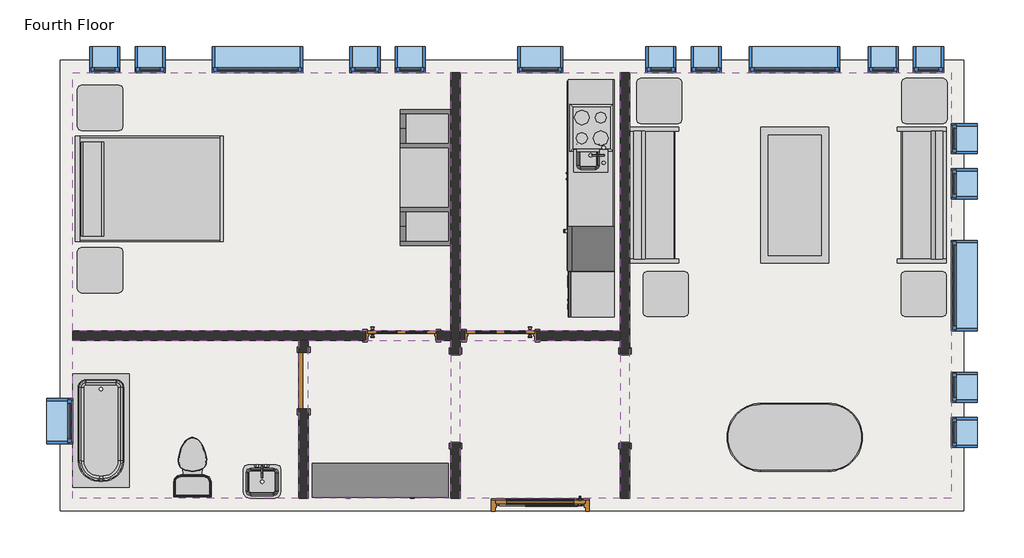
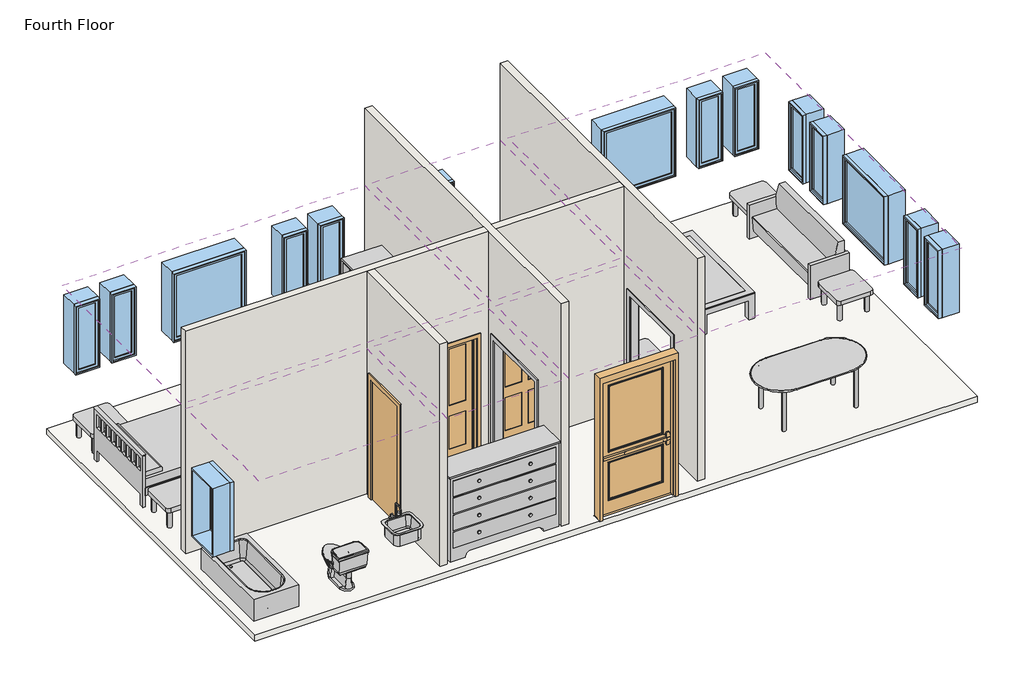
# One storey, incomplete: 17 windows, 14 furniture elements, 6 coverings, 6 proxies, 4 doors, 4 flow terminals, 4 walls, 1 slab.
"""IFC4 building model written with IfcOpenShell, lengths in millimetres."""

from ifc_helpers import new_model, si_unit, frame, origin, place, context, project, spatial, polyline, outline, extrude, faceted_brep, transform, mapped, element, save
from components import proxy_a6faaae8, proxy_45b28599, proxy_2d72b8be, proxy_f44482cc, proxy_d58c73d0, proxy_c523a7b7, door_734823c0, door_3a280f7b, door_48307b55, door_4d6c7550, flow_terminal_871c2e40, flow_terminal_62a433f7, toilet_domestic_3d_toilet_domestic_3d_f7549cf7, toilet_domestic_3d_toilet_domestic_3d_183bbd19, tub_rectangular_3d_tub_rectangular_3d_c56944d8, furniture_096e7f55, furniture_b11095bc, furniture_7c473f12, furniture_cf0b6580, furniture_a4ffab56, furniture_4aa42607, furniture_cd93a443, furniture_2c34a4f9, furniture_3a588284, furniture_1befe2a2, window_da97879f, window_d61ef850, window_60baf983, window_6eb97611

model = new_model("IFC4")

# Units and contexts
model_context = context("Model", 3, world=origin())
ifc_project = project(units=[si_unit("LENGTHUNIT", "METRE", prefix="MILLI")], contexts=[model_context])

# Site, building, storey
site = spatial("IfcSite", under=ifc_project)
building = spatial("IfcBuilding", under=site)
storey = spatial("IfcBuildingStorey", under=building, Name="Fourth Floor", Elevation=9144.0)

# Proxies
placement = place(None, origin())
proxy_shape = proxy_a6faaae8(model_context)
element("IfcBuildingElementProxy", 1, Name="Cook Top-4 Unit2 : 22\" x 20\"", ObjectType="Cook Top-4 Unit2 : 22\" x 20\"", at=placement, inside=storey, context=model_context, shape_type="MappedRepresentation", body=[
    mapped(proxy_shape, transform((-9031.7273953, 6866.0370415, 9145.7), x_axis=(0.0, 1.0, 0.0), y_axis=(-1.0, 0.0, 0.0), z_axis=(0.0, 0.0, 1.0))),
])
proxy_2_shape = proxy_45b28599(model_context)
element("IfcBuildingElementProxy", 2, Name="Dishwasher : 24\" x 24\" x 34\"", ObjectType="Dishwasher : 24\" x 24\" x 34\"", at=placement, inside=storey, context=model_context, shape_type="MappedRepresentation", body=[
    mapped(proxy_2_shape, transform((-9291.8269601, 5000.45451, 9144.0), x_axis=(0.0, -1.0, 0.0), y_axis=(1.0, 0.0, 0.0), z_axis=(0.0, 0.0, 1.0))),
])
proxy_3_shape = proxy_2d72b8be(model_context)
element("IfcBuildingElementProxy", 3, Name="Kitchenette - Medium : 8'6\"", ObjectType="Kitchenette - Medium : 8'6\"", at=placement, inside=storey, context=model_context, shape_type="MappedRepresentation", body=[
    mapped(proxy_3_shape, transform((-8720.5773953, 6237.0747464, 9144.0), x_axis=(0.0, -1.0, 0.0), y_axis=(1.0, 0.0, 0.0), z_axis=(0.0, 0.0, 1.0))),
])
proxy_4_shape = proxy_f44482cc(model_context)
element("IfcBuildingElementProxy", 4, Name="Passage Opening-Cased : 48\" x 84\"", ObjectType="Passage Opening-Cased : 48\" x 84\"", at=placement, inside=storey, context=model_context, shape_type="MappedRepresentation", body=[
    mapped(proxy_4_shape, transform((-8577.1844712, 3224.0452741, 9144.0), x_axis=(0.0, 1.0, 0.0), y_axis=(-1.0, 0.0, 0.0), z_axis=(0.0, 0.0, 1.0))),
])
proxy_5_shape = proxy_d58c73d0(model_context)
element("IfcBuildingElementProxy", 5, Name="Passage Opening-Cased : 48\" x 84\"", ObjectType="Passage Opening-Cased : 48\" x 84\"", at=placement, inside=storey, context=model_context, shape_type="MappedRepresentation", body=[
    mapped(proxy_5_shape, transform((-10863.1844712, 3224.0452741, 9144.0), x_axis=(0.0, 1.0, 0.0), y_axis=(-1.0, 0.0, 0.0), z_axis=(0.0, 0.0, 1.0))),
])
proxy_6_shape = proxy_c523a7b7(model_context)
element("IfcBuildingElementProxy", 6, Name="Refrigerator : 24\" x 25\" LH", ObjectType="Refrigerator : 24\" x 25\" LH", at=placement, inside=storey, context=model_context, shape_type="MappedRepresentation", body=[
    mapped(proxy_6_shape, transform((-9020.2263668, 5234.0870415, 9144.0), x_axis=(0.0, -1.0, 0.0), y_axis=(1.0, 0.0, 0.0), z_axis=(0.0, 0.0, 1.0))),
])

# Coverings
element("IfcCovering", 7, ObjectType="GWB on Mtl. Stud", at=placement, inside=storey, context=model_context, shape_type="SweptSolid", body=[
    extrude(outline(polyline([(-16020.9719712, 7611.6441174), (-10926.6844712, 7611.6441174), (-10926.6844712, 4128.6691174), (-16020.9719712, 4128.6691174), (-16020.9719712, 7611.6441174)])), frame((0.0, 0.0, 11734.8), z_axis=(0.0, 0.0, 1.0), x_axis=(1.0, 0.0, 0.0)), (0.0, 0.0, 1.0), 107.95),
])
element("IfcCovering", 8, ObjectType="GWB on Mtl. Stud", at=placement, inside=storey, context=model_context, shape_type="SweptSolid", body=[
    extrude(outline(polyline([(-10799.6844712, 4128.6691174), (-10799.6844712, 7611.6441174), (-8640.6844712, 7611.6441174), (-8640.6844712, 4128.6691174), (-10799.6844712, 4128.6691174)])), frame((0.0, 0.0, 11734.8), z_axis=(0.0, 0.0, 1.0), x_axis=(1.0, 0.0, 0.0)), (0.0, 0.0, 1.0), 107.95),
])
element("IfcCovering", 9, ObjectType="GWB on Mtl. Stud", at=placement, inside=storey, context=model_context, shape_type="SweptSolid", body=[
    extrude(outline(polyline([(-8513.6844712, 1868.0691174), (-8513.6844712, 7611.6441174), (-4181.3969712, 7611.6441174), (-4181.3969712, 1868.0691174), (-8513.6844712, 1868.0691174)])), frame((0.0, 0.0, 11734.8), z_axis=(0.0, 0.0, 1.0), x_axis=(1.0, 0.0, 0.0)), (0.0, 0.0, 1.0), 107.95),
])
element("IfcCovering", 10, ObjectType="GWB on Mtl. Stud", at=placement, inside=storey, context=model_context, shape_type="SweptSolid", body=[
    extrude(outline(polyline([(-8640.6844712, 1868.0691174), (-10799.6844712, 1868.0691174), (-10799.6844712, 4001.6691174), (-8640.6844712, 4001.6691174), (-8640.6844712, 1868.0691174)])), frame((0.0, 0.0, 11734.8), z_axis=(0.0, 0.0, 1.0), x_axis=(1.0, 0.0, 0.0)), (0.0, 0.0, 1.0), 107.95),
])
element("IfcCovering", 11, ObjectType="GWB on Mtl. Stud", at=placement, inside=storey, context=model_context, shape_type="SweptSolid", body=[
    extrude(outline(polyline([(-10926.6844712, 1868.0691174), (-12845.9719712, 1868.0691174), (-12845.9719712, 4001.6691174), (-10926.6844712, 4001.6691174), (-10926.6844712, 1868.0691174)])), frame((0.0, 0.0, 11734.8), z_axis=(0.0, 0.0, 1.0), x_axis=(1.0, 0.0, 0.0)), (0.0, 0.0, 1.0), 107.95),
])
element("IfcCovering", 12, ObjectType="GWB on Mtl. Stud", at=placement, inside=storey, context=model_context, shape_type="SweptSolid", body=[
    extrude(outline(polyline([(-12972.9719712, 4001.6691174), (-12972.9719712, 1868.0691174), (-16020.9719712, 1868.0691174), (-16020.9719712, 4001.6691174), (-12972.9719712, 4001.6691174)])), frame((0.0, 0.0, 11734.8), z_axis=(0.0, 0.0, 1.0), x_axis=(1.0, 0.0, 0.0)), (0.0, 0.0, 1.0), 107.95),
])

# Doors
door_shape = door_734823c0(model_context)
element("IfcDoor", 13, ObjectType="Door-Exterior-Single-Two_Lite : 48\" x 96\"", at=placement, inside=storey, context=model_context, shape_type="MappedRepresentation", body=[
    mapped(door_shape, transform((-9720.1844712, 1685.5066174, 9144.0), x_axis=(-1.0, 0.0, 0.0), y_axis=(0.0, -1.0, 0.0), z_axis=(0.0, 0.0, 1.0))),
])
door_2_shape = door_3a280f7b(model_context)
element("IfcDoor", 14, ObjectType="Door-Interior-Single-4_Panel-Wood : 36\" x 84\"", at=placement, inside=storey, context=model_context, shape_type="MappedRepresentation", body=[
    mapped(door_2_shape, transform((-10253.5844712, 4068.3441174, 9144.0), x_axis=(-1.0, 0.0, 0.0), y_axis=(0.0, -1.0, 0.0), z_axis=(0.0, 0.0, 1.0))),
])
door_3_shape = door_48307b55(model_context)
element("IfcDoor", 15, ObjectType="Door-Interior-Single-4_Panel-Wood : 36\" x 84\"", at=placement, inside=storey, context=model_context, shape_type="MappedRepresentation", body=[
    mapped(door_3_shape, transform((-11588.6719712, 4068.3441174, 9144.0), x_axis=(1.0, 0.0, 0.0), y_axis=(0.0, 1.0, 0.0), z_axis=(0.0, 0.0, 1.0))),
])
door_4_shape = door_4d6c7550(model_context)
element("IfcDoor", 16, ObjectType="Single-Flush : 30\" x 84\"", at=placement, inside=storey, context=model_context, shape_type="MappedRepresentation", body=[
    mapped(door_4_shape, transform((-12909.4719712, 3455.5691174, 9144.0), x_axis=(0.0, 1.0, 0.0), y_axis=(-1.0, 0.0, 0.0), z_axis=(0.0, 0.0, 1.0))),
])

# Flow terminals
flow_terminal_shape = flow_terminal_871c2e40(model_context)
element("IfcFlowTerminal", 17, ObjectType="Sink Kitchen-Island : 18\" x 18\"", at=placement, inside=storey, context=model_context, shape_type="MappedRepresentation", body=[
    mapped(flow_terminal_shape, transform((-9040.4227964, 6513.4262821, 9131.3), x_axis=(0.0, -1.0, 0.0), y_axis=(1.0, 0.0, 0.0), z_axis=(0.0, 0.0, 1.0))),
])
flow_terminal_2_shape = flow_terminal_62a433f7(model_context)
element("IfcFlowTerminal", 18, ObjectType="Sink Vanity-Square : 20\" x 18\"", at=placement, inside=storey, context=model_context, shape_type="MappedRepresentation", body=[
    mapped(flow_terminal_2_shape, transform((-13483.9612118, 2145.1237163, 9144.0), x_axis=(1.0, 0.0, 0.0), y_axis=(0.0, 1.0, 0.0), z_axis=(0.0, 0.0, 1.0))),
])
toilet_domestic_3d_toilet_domestic_3d_shape = toilet_domestic_3d_toilet_domestic_3d_f7549cf7(model_context)
toilet_domestic_3d_toilet_domestic_3d_2_shape = toilet_domestic_3d_toilet_domestic_3d_183bbd19(model_context)
element("IfcFlowTerminal", 19, ObjectType="Toilet-Domestic-3D : Toilet-Domestic-3D", at=placement, inside=storey, context=model_context, shape_type="MappedRepresentation", body=[
    mapped(toilet_domestic_3d_toilet_domestic_3d_shape, transform((-14408.0719712, 2388.7691174, 9144.0), x_axis=(-1.0, 0.0, 0.0), y_axis=(0.0, -1.0, 0.0), z_axis=(0.0, 0.0, 1.0))),
    mapped(toilet_domestic_3d_toilet_domestic_3d_2_shape, transform((-14408.0719712, 2388.7691174, 9144.0), x_axis=(-1.0, 0.0, 0.0), y_axis=(0.0, -1.0, 0.0), z_axis=(0.0, 0.0, 1.0))),
])
tub_rectangular_3d_tub_rectangular_3d_shape = tub_rectangular_3d_tub_rectangular_3d_c56944d8(model_context)
element("IfcFlowTerminal", 20, ObjectType="Tub-Rectangular-3D : Tub-Rectangular-3D", at=placement, inside=storey, context=model_context, shape_type="MappedRepresentation", body=[
    mapped(tub_rectangular_3d_tub_rectangular_3d_shape, transform((-16197.1844712, 2435.4536487, 9144.0), x_axis=(0.0, -1.0, 0.0), y_axis=(1.0, 0.0, 0.0), z_axis=(0.0, 0.0, 1.0))),
])

# Furniture
furniture_shape = furniture_096e7f55(model_context)
element("IfcFurniture", 21, ObjectType="Bed-Shaker : Double 56\" x 78\"", at=placement, inside=storey, context=model_context, shape_type="MappedRepresentation", body=[
    mapped(furniture_shape, transform((-15975.8112951, 6061.1004868, 9144.0), x_axis=(0.0, 1.0, 0.0), y_axis=(-1.0, 0.0, 0.0), z_axis=(0.0, 0.0, 1.0))),
])
furniture_2_shape = furniture_b11095bc(model_context)
element("IfcFurniture", 22, ObjectType="Counter Top w Sink Hole : 24\" Depth", at=placement, inside=storey, context=model_context, shape_type="MappedRepresentation", body=[
    mapped(furniture_2_shape, transform((-8720.5773953, 6313.2747464, 9131.3), x_axis=(0.0, -1.0, 0.0), y_axis=(1.0, 0.0, 0.0), z_axis=(0.0, 0.0, 1.0))),
])
furniture_3_shape = furniture_7c473f12(model_context)
element("IfcFurniture", 23, ObjectType="Dresser : 72\" x 60\" x 18\"", at=placement, inside=storey, context=model_context, shape_type="MappedRepresentation", body=[
    mapped(furniture_3_shape, transform((-11608.4037114, 2478.8820715, 9144.0), x_axis=(1.0, 0.0, 0.0), y_axis=(0.0, 1.0, 0.0), z_axis=(0.0, 0.0, 1.0))),
])
furniture_4_shape = furniture_cf0b6580(model_context)
element("IfcFurniture", 24, ObjectType="Entertainment Center : 72\" x 72\" x 24\"", at=placement, inside=storey, context=model_context, shape_type="MappedRepresentation", body=[
    mapped(furniture_4_shape, transform((-10825.0844712, 6196.8069525, 9144.0), x_axis=(0.0, -1.0, 0.0), y_axis=(1.0, 0.0, 0.0), z_axis=(0.0, 0.0, 1.0))),
])
furniture_5_shape = furniture_a4ffab56(model_context)
element("IfcFurniture", 25, ObjectType="Sofa : 72\"", at=placement, inside=storey, context=model_context, shape_type="MappedRepresentation", body=[
    mapped(furniture_5_shape, transform((-8037.3303728, 5888.6861256, 9144.0), x_axis=(0.0, 1.0, 0.0), y_axis=(-1.0, 0.0, 0.0), z_axis=(0.0, 0.0, 1.0))),
])
furniture_6_shape = furniture_4aa42607(model_context)
element("IfcFurniture", 26, ObjectType="Sofa : 72\"", at=placement, inside=storey, context=model_context, shape_type="MappedRepresentation", body=[
    mapped(furniture_6_shape, transform((-4722.8385696, 5888.6861256, 9144.0), x_axis=(0.0, 1.0, 0.0), y_axis=(-1.0, 0.0, 0.0), z_axis=(0.0, 0.0, 1.0))),
])
furniture_7_shape = furniture_cd93a443(model_context)
element("IfcFurniture", 27, ObjectType="Table-Coffee : 36\" x 72\" x 18\"", at=placement, inside=storey, context=model_context, shape_type="MappedRepresentation", body=[
    mapped(furniture_7_shape, transform((-6386.395549, 5977.3223841, 9144.0), x_axis=(0.0, -1.0, 0.0), y_axis=(1.0, 0.0, 0.0), z_axis=(0.0, 0.0, 1.0))),
])
furniture_8_shape = furniture_2c34a4f9(model_context)
element("IfcFurniture", 28, ObjectType="Table-Dining Oval : 36\" x 72\"", at=placement, inside=storey, context=model_context, shape_type="MappedRepresentation", body=[
    mapped(furniture_8_shape, transform((-5889.3647991, 3051.6674781, 9144.0), x_axis=(1.0, 0.0, 0.0), y_axis=(0.0, 1.0, 0.0), z_axis=(0.0, 0.0, 1.0))),
])
furniture_9_shape = furniture_3a588284(model_context)
element("IfcFurniture", 29, ObjectType="Table-End : 24\" x 24\"", at=placement, inside=storey, context=model_context, shape_type="MappedRepresentation", body=[
    mapped(furniture_9_shape, transform((-8424.0054177, 7076.6566174, 9144.0), x_axis=(1.0, 0.0, 0.0), y_axis=(0.0, 1.0, 0.0), z_axis=(0.0, 0.0, 1.0))),
])
element("IfcFurniture", 30, ObjectType="Table-End : 24\" x 24\"", at=placement, inside=storey, context=model_context, shape_type="MappedRepresentation", body=[
    mapped(furniture_9_shape, transform((-8338.5433691, 4473.0178252, 9144.0), x_axis=(1.0, 0.0, 0.0), y_axis=(0.0, 1.0, 0.0), z_axis=(0.0, 0.0, 1.0))),
])
element("IfcFurniture", 31, ObjectType="Table-End : 24\" x 24\"", at=placement, inside=storey, context=model_context, shape_type="MappedRepresentation", body=[
    mapped(furniture_9_shape, transform((-15961.2056015, 4795.4191174, 9144.0), x_axis=(1.0, 0.0, 0.0), y_axis=(0.0, 1.0, 0.0), z_axis=(0.0, 0.0, 1.0))),
])
furniture_10_shape = furniture_1befe2a2(model_context)
element("IfcFurniture", 32, ObjectType="Table-End : 24\" x 24\"", at=placement, inside=storey, context=model_context, shape_type="MappedRepresentation", body=[
    mapped(furniture_10_shape, transform((-4234.5635246, 7076.6566174, 9144.0), x_axis=(-1.0, 0.0, 0.0), y_axis=(0.0, -1.0, 0.0), z_axis=(0.0, 0.0, 1.0))),
])
element("IfcFurniture", 33, ObjectType="Table-End : 24\" x 24\"", at=placement, inside=storey, context=model_context, shape_type="MappedRepresentation", body=[
    mapped(furniture_10_shape, transform((-4243.8255733, 4473.0178252, 9144.0), x_axis=(-1.0, 0.0, 0.0), y_axis=(0.0, -1.0, 0.0), z_axis=(0.0, 0.0, 1.0))),
])
element("IfcFurniture", 34, ObjectType="Table-End : 24\" x 24\"", at=placement, inside=storey, context=model_context, shape_type="MappedRepresentation", body=[
    mapped(furniture_10_shape, transform((-15961.2056015, 7288.6818561, 9144.0), x_axis=(1.0, 0.0, 0.0), y_axis=(0.0, 1.0, 0.0), z_axis=(0.0, 0.0, 1.0))),
])

# Slab
element("IfcSlab", 35, ObjectType="LW Concrete on Metal Deck", at=placement, inside=storey, context=model_context, shape_type="SweptSolid", body=[
    extrude(outline(polyline([(-4016.2969712, 7776.7441174), (-4016.2969712, 1702.9691174), (-16186.0719712, 1702.9691174), (-16186.0719712, 7776.7441174), (-4016.2969712, 7776.7441174)])), frame((0.0, 0.0, 9039.225), z_axis=(0.0, 0.0, 1.0), x_axis=(1.0, 0.0, 0.0)), (0.0, 0.0, 1.0), 104.775),
])

# Walls
element("IfcWall", 36, ObjectType="Interior - 5\" Partition (2-hr)", at=placement, inside=storey, context=model_context, shape_type="Brep", body=[
    faceted_brep([(-8640.6844712, 7611.6441174, 9144.0), (-8640.6844712, 4128.6691174, 9144.0), (-8640.6844712, 4001.6691174, 9144.0), (-8640.6844712, 3825.4566174, 9144.0), (-8640.6844712, 3825.4566174, 11277.6), (-8640.6844712, 2606.2566174, 11277.6), (-8640.6844712, 2606.2566174, 9144.0), (-8640.6844712, 1868.0691174, 9144.0), (-8640.6844712, 1868.0691174, 13106.4), (-8640.6844712, 4001.6691174, 13106.4), (-8640.6844712, 4128.6691174, 13106.4), (-8640.6844712, 7611.6441174, 13106.4), (-8513.6844712, 3825.4566174, 11277.6), (-8513.6844712, 3825.4566174, 9144.0), (-8513.6844712, 7611.6441174, 9144.0), (-8513.6844712, 7611.6441174, 13106.4), (-8513.6844712, 1868.0691174, 13106.4), (-8513.6844712, 1868.0691174, 9144.0), (-8513.6844712, 2606.2566174, 9144.0), (-8513.6844712, 2606.2566174, 11277.6)], [[[0, 1, 2, 3, 4, 5, 6, 7, 8, 9, 10, 11]], [[12, 13, 14, 15, 16, 17, 18, 19]], [[18, 17, 7, 6]], [[14, 13, 3, 2, 1, 0]], [[11, 10, 9, 8, 16, 15]], [[6, 5, 19, 18]], [[4, 3, 13, 12]], [[5, 4, 12, 19]], [[0, 11, 15, 14]], [[8, 7, 17, 16]]]),
])
element("IfcWall", 37, ObjectType="Interior - 5\" Partition (2-hr)", at=placement, inside=storey, context=model_context, shape_type="Brep", body=[
    faceted_brep([(-10926.6844712, 7611.6441174, 9144.0), (-10926.6844712, 4128.6691174, 9144.0), (-10926.6844712, 4001.6691174, 9144.0), (-10926.6844712, 3825.4566174, 9144.0), (-10926.6844712, 3825.4566174, 11277.6), (-10926.6844712, 2606.2566174, 11277.6), (-10926.6844712, 2606.2566174, 9144.0), (-10926.6844712, 1868.0691174, 9144.0), (-10926.6844712, 1868.0691174, 13106.4), (-10926.6844712, 4001.6691174, 13106.4), (-10926.6844712, 4128.6691174, 13106.4), (-10926.6844712, 7611.6441174, 13106.4), (-10799.6844712, 3825.4566174, 11277.6), (-10799.6844712, 3825.4566174, 9144.0), (-10799.6844712, 4001.6691174, 9144.0), (-10799.6844712, 4128.6691174, 9144.0), (-10799.6844712, 7611.6441174, 9144.0), (-10799.6844712, 7611.6441174, 13106.4), (-10799.6844712, 4128.6691174, 13106.4), (-10799.6844712, 4001.6691174, 13106.4), (-10799.6844712, 1868.0691174, 13106.4), (-10799.6844712, 1868.0691174, 9144.0), (-10799.6844712, 2606.2566174, 9144.0), (-10799.6844712, 2606.2566174, 11277.6)], [[[0, 1, 2, 3, 4, 5, 6, 7, 8, 9, 10, 11]], [[12, 13, 14, 15, 16, 17, 18, 19, 20, 21, 22, 23]], [[22, 21, 7, 6]], [[16, 15, 14, 13, 3, 2, 1, 0]], [[11, 10, 9, 8, 20, 19, 18, 17]], [[6, 5, 23, 22]], [[4, 3, 13, 12]], [[5, 4, 12, 23]], [[0, 11, 17, 16]], [[8, 7, 21, 20]]]),
])
element("IfcWall", 38, ObjectType="Interior - 5\" Partition (2-hr)", at=placement, inside=storey, context=model_context, shape_type="Brep", body=[
    faceted_brep([(-8640.6844712, 4001.6691174, 9144.0), (-8640.6844712, 4001.6691174, 13106.4), (-10799.6844712, 4001.6691174, 13106.4), (-10799.6844712, 4001.6691174, 9144.0), (-10736.1844712, 4001.6691174, 9144.0), (-10736.1844712, 4001.6691174, 11303.0), (-9770.9844712, 4001.6691174, 11303.0), (-9770.9844712, 4001.6691174, 9144.0), (-8640.6844712, 4128.6691174, 13106.4), (-8640.6844712, 4128.6691174, 9144.0), (-9770.9844712, 4128.6691174, 9144.0), (-9770.9844712, 4128.6691174, 11303.0), (-10736.1844712, 4128.6691174, 11303.0), (-10736.1844712, 4128.6691174, 9144.0), (-10799.6844712, 4128.6691174, 9144.0), (-10799.6844712, 4128.6691174, 13106.4)], [[[0, 1, 2, 3, 4, 5, 6, 7]], [[8, 9, 10, 11, 12, 13, 14, 15]], [[9, 0, 7, 10]], [[13, 4, 3, 14]], [[1, 8, 15, 2]], [[1, 0, 9, 8]], [[3, 2, 15, 14]], [[5, 4, 13, 12]], [[6, 5, 12, 11]], [[7, 6, 11, 10]]]),
    faceted_brep([(-16020.9719712, 4001.6691174, 9144.0), (-12972.9719712, 4001.6691174, 9144.0), (-12845.9719712, 4001.6691174, 9144.0), (-12071.2719712, 4001.6691174, 9144.0), (-12071.2719712, 4001.6691174, 11303.0), (-11106.0719712, 4001.6691174, 11303.0), (-11106.0719712, 4001.6691174, 9144.0), (-10926.6844712, 4001.6691174, 9144.0), (-10926.6844712, 4001.6691174, 13106.4), (-12845.9719712, 4001.6691174, 13106.4), (-12972.9719712, 4001.6691174, 13106.4), (-16020.9719712, 4001.6691174, 13106.4), (-12071.2719712, 4128.6691174, 9144.0), (-16020.9719712, 4128.6691174, 9144.0), (-16020.9719712, 4128.6691174, 13106.4), (-10926.6844712, 4128.6691174, 13106.4), (-10926.6844712, 4128.6691174, 9144.0), (-11106.0719712, 4128.6691174, 9144.0), (-11106.0719712, 4128.6691174, 11303.0), (-12071.2719712, 4128.6691174, 11303.0)], [[[0, 1, 2, 3, 4, 5, 6, 7, 8, 9, 10, 11]], [[12, 13, 14, 15, 16, 17, 18, 19]], [[6, 17, 16, 7]], [[3, 2, 1, 0, 13, 12]], [[14, 11, 10, 9, 8, 15]], [[8, 7, 16, 15]], [[5, 18, 17, 6]], [[18, 5, 4, 19]], [[19, 4, 3, 12]], [[0, 11, 14, 13]]]),
])
element("IfcWall", 39, ObjectType="Interior - 5\" Partition (2-hr)", at=placement, inside=storey, context=model_context, shape_type="SweptSolid", body=[
    extrude(outline(polyline([(4001.6691174, 9144.0), (3836.5691174, 9144.0), (3836.5691174, 11277.6), (3074.5691174, 11277.6), (3074.5691174, 9144.0), (1868.0691174, 9144.0), (1868.0691174, 13106.4), (4001.6691174, 13106.4), (4001.6691174, 9144.0)])), frame((-12972.9719712, 0.0, 0.0), z_axis=(1.0, 0.0, 0.0), x_axis=(0.0, 1.0, 0.0)), (0.0, 0.0, 1.0), 127.0),
])

# Windows
window_shape = window_da97879f(model_context)
element("IfcWindow", 40, ObjectType="Fixed : 16\" x 48\"", at=placement, inside=storey, context=model_context, shape_type="MappedRepresentation", body=[
    mapped(window_shape, transform((-15625.6844712, 7787.8566174, 9144.0), x_axis=(-1.0, 0.0, 0.0), y_axis=(0.0, -1.0, 0.0), z_axis=(0.0, 0.0, 1.0))),
])
element("IfcWindow", 41, ObjectType="Fixed : 16\" x 48\"", at=placement, inside=storey, context=model_context, shape_type="MappedRepresentation", body=[
    mapped(window_shape, transform((-15016.0844712, 7787.8566174, 9144.0), x_axis=(-1.0, 0.0, 0.0), y_axis=(0.0, -1.0, 0.0), z_axis=(0.0, 0.0, 1.0))),
])
element("IfcWindow", 42, ObjectType="Fixed : 16\" x 48\"", at=placement, inside=storey, context=model_context, shape_type="MappedRepresentation", body=[
    mapped(window_shape, transform((-8132.6844712, 7787.8566174, 9144.0), x_axis=(-1.0, 0.0, 0.0), y_axis=(0.0, -1.0, 0.0), z_axis=(0.0, 0.0, 1.0))),
])
element("IfcWindow", 43, ObjectType="Fixed : 16\" x 48\"", at=placement, inside=storey, context=model_context, shape_type="MappedRepresentation", body=[
    mapped(window_shape, transform((-7523.0844712, 7787.8566174, 9144.0), x_axis=(-1.0, 0.0, 0.0), y_axis=(0.0, -1.0, 0.0), z_axis=(0.0, 0.0, 1.0))),
])
element("IfcWindow", 44, ObjectType="Fixed : 16\" x 48\"", at=placement, inside=storey, context=model_context, shape_type="MappedRepresentation", body=[
    mapped(window_shape, transform((-4005.1844712, 6759.1566174, 9144.0), x_axis=(0.0, 1.0, 0.0), y_axis=(-1.0, 0.0, 0.0), z_axis=(0.0, 0.0, 1.0))),
])
element("IfcWindow", 45, ObjectType="Fixed : 16\" x 48\"", at=placement, inside=storey, context=model_context, shape_type="MappedRepresentation", body=[
    mapped(window_shape, transform((-4005.1844712, 6149.5566174, 9144.0), x_axis=(0.0, 1.0, 0.0), y_axis=(-1.0, 0.0, 0.0), z_axis=(0.0, 0.0, 1.0))),
])
window_2_shape = window_d61ef850(model_context)
element("IfcWindow", 46, ObjectType="Fixed : 16\" x 48\"", at=placement, inside=storey, context=model_context, shape_type="MappedRepresentation", body=[
    mapped(window_2_shape, transform((-11434.6844712, 7787.8566174, 9144.0), x_axis=(1.0, 0.0, 0.0), y_axis=(0.0, 1.0, 0.0), z_axis=(0.0, 0.0, 1.0))),
])
element("IfcWindow", 47, ObjectType="Fixed : 16\" x 48\"", at=placement, inside=storey, context=model_context, shape_type="MappedRepresentation", body=[
    mapped(window_2_shape, transform((-12044.2844712, 7787.8566174, 9144.0), x_axis=(1.0, 0.0, 0.0), y_axis=(0.0, 1.0, 0.0), z_axis=(0.0, 0.0, 1.0))),
])
element("IfcWindow", 48, ObjectType="Fixed : 16\" x 48\"", at=placement, inside=storey, context=model_context, shape_type="MappedRepresentation", body=[
    mapped(window_2_shape, transform((-4449.6844712, 7787.8566174, 9144.0), x_axis=(1.0, 0.0, 0.0), y_axis=(0.0, 1.0, 0.0), z_axis=(0.0, 0.0, 1.0))),
])
element("IfcWindow", 49, ObjectType="Fixed : 16\" x 48\"", at=placement, inside=storey, context=model_context, shape_type="MappedRepresentation", body=[
    mapped(window_2_shape, transform((-5059.2844712, 7787.8566174, 9144.0), x_axis=(1.0, 0.0, 0.0), y_axis=(0.0, 1.0, 0.0), z_axis=(0.0, 0.0, 1.0))),
])
element("IfcWindow", 50, ObjectType="Fixed : 16\" x 48\"", at=placement, inside=storey, context=model_context, shape_type="MappedRepresentation", body=[
    mapped(window_2_shape, transform((-4005.1844712, 2720.5566174, 9144.0), x_axis=(0.0, -1.0, 0.0), y_axis=(1.0, 0.0, 0.0), z_axis=(0.0, 0.0, 1.0))),
])
element("IfcWindow", 51, ObjectType="Fixed : 16\" x 48\"", at=placement, inside=storey, context=model_context, shape_type="MappedRepresentation", body=[
    mapped(window_2_shape, transform((-4005.1844712, 3330.1566174, 9144.0), x_axis=(0.0, -1.0, 0.0), y_axis=(1.0, 0.0, 0.0), z_axis=(0.0, 0.0, 1.0))),
])
window_3_shape = window_60baf983(model_context)
element("IfcWindow", 52, ObjectType="Fixed : 24\" x 48\"", at=placement, inside=storey, context=model_context, shape_type="MappedRepresentation", body=[
    mapped(window_3_shape, transform((-9758.2844712, 7787.8566174, 9144.0), x_axis=(-1.0, 0.0, 0.0), y_axis=(0.0, -1.0, 0.0), z_axis=(0.0, 0.0, 1.0))),
])
element("IfcWindow", 53, ObjectType="Fixed : 24\" x 48\"", at=placement, inside=storey, context=model_context, shape_type="MappedRepresentation", body=[
    mapped(window_3_shape, transform((-16197.1844712, 2872.9566174, 9144.0), x_axis=(0.0, -1.0, 0.0), y_axis=(1.0, 0.0, 0.0), z_axis=(0.0, 0.0, 1.0))),
])
window_4_shape = window_6eb97611(model_context)
element("IfcWindow", 54, ObjectType="Fixed : 48\" x 48\"", at=placement, inside=storey, context=model_context, shape_type="MappedRepresentation", body=[
    mapped(window_4_shape, transform((-13568.2844712, 7787.8566174, 9144.0), x_axis=(-1.0, 0.0, 0.0), y_axis=(0.0, -1.0, 0.0), z_axis=(0.0, 0.0, 1.0))),
])
element("IfcWindow", 55, ObjectType="Fixed : 48\" x 48\"", at=placement, inside=storey, context=model_context, shape_type="MappedRepresentation", body=[
    mapped(window_4_shape, transform((-6329.2844712, 7787.8566174, 9144.0), x_axis=(-1.0, 0.0, 0.0), y_axis=(0.0, -1.0, 0.0), z_axis=(0.0, 0.0, 1.0))),
])
element("IfcWindow", 56, ObjectType="Fixed : 48\" x 48\"", at=placement, inside=storey, context=model_context, shape_type="MappedRepresentation", body=[
    mapped(window_4_shape, transform((-4005.1844712, 4777.9566174, 9144.0), x_axis=(0.0, 1.0, 0.0), y_axis=(-1.0, 0.0, 0.0), z_axis=(0.0, 0.0, 1.0))),
])

save(model, "model.ifc")
